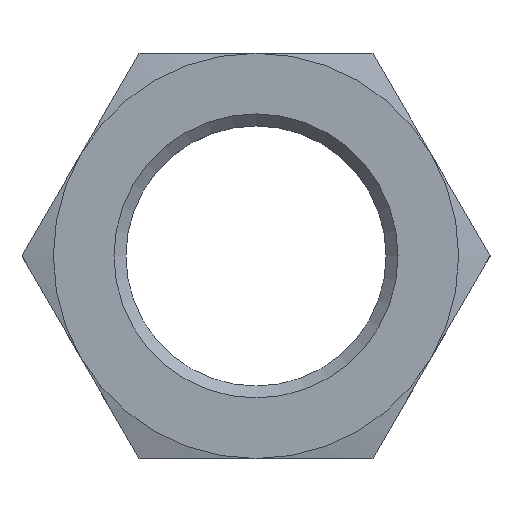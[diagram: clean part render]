
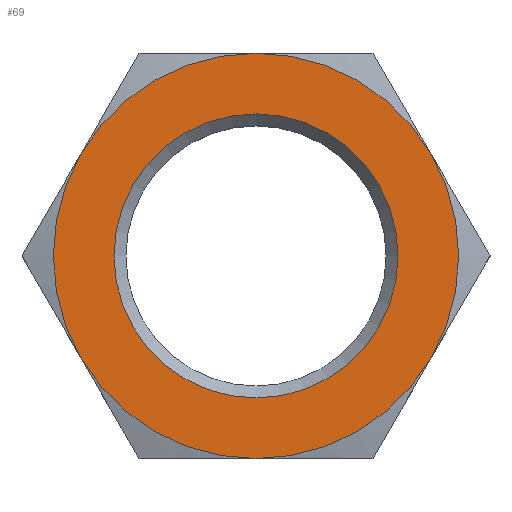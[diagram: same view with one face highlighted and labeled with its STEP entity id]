
A CAD part, top view. The second image highlights one B-rep face of the part: STEP entity #69.
In plain terms, the highlighted planar face has unit normal (0, 0, 1).
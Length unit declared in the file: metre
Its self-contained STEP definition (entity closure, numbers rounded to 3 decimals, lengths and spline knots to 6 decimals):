
#69 = ADVANCED_FACE( '', ( #145, #146 ), #147, .T. );
#145 = FACE_BOUND( '', #226, .T. );
#146 = FACE_OUTER_BOUND( '', #227, .T. );
#147 = PLANE( '', #228 );
#226 = EDGE_LOOP( '', ( #350 ) );
#227 = EDGE_LOOP( '', ( #351, #352, #353, #354, #355, #356 ) );
#228 = AXIS2_PLACEMENT_3D( '', #357, #358, #359 );
#350 = ORIENTED_EDGE( '', *, *, #467, .T. );
#351 = ORIENTED_EDGE( '', *, *, #493, .T. );
#352 = ORIENTED_EDGE( '', *, *, #494, .T. );
#353 = ORIENTED_EDGE( '', *, *, #495, .T. );
#354 = ORIENTED_EDGE( '', *, *, #452, .T. );
#355 = ORIENTED_EDGE( '', *, *, #496, .T. );
#356 = ORIENTED_EDGE( '', *, *, #487, .T. );
#357 = CARTESIAN_POINT( '', ( -0.014722, 0.0085, 0.004 ) );
#358 = DIRECTION( '', ( 0., 0., 1. ) );
#359 = DIRECTION( '', ( 1., 0., 0. ) );
#452 = EDGE_CURVE( '', #519, #522, #524, .T. );
#467 = EDGE_CURVE( '', #548, #548, #549, .F. );
#487 = EDGE_CURVE( '', #574, #577, #579, .T. );
#493 = EDGE_CURVE( '', #577, #587, #588, .T. );
#494 = EDGE_CURVE( '', #587, #564, #589, .T. );
#495 = EDGE_CURVE( '', #564, #519, #590, .T. );
#496 = EDGE_CURVE( '', #522, #574, #591, .T. );
#519 = VERTEX_POINT( '', #616 );
#522 = VERTEX_POINT( '', #622 );
#524 = CIRCLE( '', #627, 0.0085 );
#548 = VERTEX_POINT( '', #668 );
#549 = CIRCLE( '', #669, 0.005959 );
#564 = VERTEX_POINT( '', #700 );
#574 = VERTEX_POINT( '', #723 );
#577 = VERTEX_POINT( '', #729 );
#579 = CIRCLE( '', #734, 0.0085 );
#587 = VERTEX_POINT( '', #748 );
#588 = CIRCLE( '', #749, 0.0085 );
#589 = CIRCLE( '', #750, 0.0085 );
#590 = CIRCLE( '', #751, 0.0085 );
#591 = CIRCLE( '', #752, 0.0085 );
#616 = CARTESIAN_POINT( '', ( -0.007361, 0.00425, 0.004 ) );
#622 = CARTESIAN_POINT( '', ( -0.007361, -0.00425, 0.004 ) );
#627 = AXIS2_PLACEMENT_3D( '', #798, #799, #800 );
#668 = CARTESIAN_POINT( '', ( 0.005959, 0., 0.004 ) );
#669 = AXIS2_PLACEMENT_3D( '', #812, #813, #814 );
#700 = CARTESIAN_POINT( '', ( 0., 0.0085, 0.004 ) );
#723 = CARTESIAN_POINT( '', ( 0., -0.0085, 0.004 ) );
#729 = CARTESIAN_POINT( '', ( 0.007361, -0.00425, 0.004 ) );
#734 = AXIS2_PLACEMENT_3D( '', #826, #827, #828 );
#748 = CARTESIAN_POINT( '', ( 0.007361, 0.00425, 0.004 ) );
#749 = AXIS2_PLACEMENT_3D( '', #832, #833, #834 );
#750 = AXIS2_PLACEMENT_3D( '', #835, #836, #837 );
#751 = AXIS2_PLACEMENT_3D( '', #838, #839, #840 );
#752 = AXIS2_PLACEMENT_3D( '', #841, #842, #843 );
#798 = CARTESIAN_POINT( '', ( 0., 0., 0.004 ) );
#799 = DIRECTION( '', ( 0., 0., 1. ) );
#800 = DIRECTION( '', ( 1., 0., 0. ) );
#812 = CARTESIAN_POINT( '', ( 0., 0., 0.004 ) );
#813 = DIRECTION( '', ( 0., 0., 1. ) );
#814 = DIRECTION( '', ( 1., 0., 0. ) );
#826 = CARTESIAN_POINT( '', ( 0., 0., 0.004 ) );
#827 = DIRECTION( '', ( 0., 0., 1. ) );
#828 = DIRECTION( '', ( 1., 0., 0. ) );
#832 = CARTESIAN_POINT( '', ( 0., 0., 0.004 ) );
#833 = DIRECTION( '', ( 0., 0., 1. ) );
#834 = DIRECTION( '', ( 1., 0., 0. ) );
#835 = CARTESIAN_POINT( '', ( 0., 0., 0.004 ) );
#836 = DIRECTION( '', ( 0., 0., 1. ) );
#837 = DIRECTION( '', ( 1., 0., 0. ) );
#838 = CARTESIAN_POINT( '', ( 0., 0., 0.004 ) );
#839 = DIRECTION( '', ( 0., 0., 1. ) );
#840 = DIRECTION( '', ( 1., 0., 0. ) );
#841 = CARTESIAN_POINT( '', ( 0., 0., 0.004 ) );
#842 = DIRECTION( '', ( 0., 0., 1. ) );
#843 = DIRECTION( '', ( 1., 0., 0. ) );
